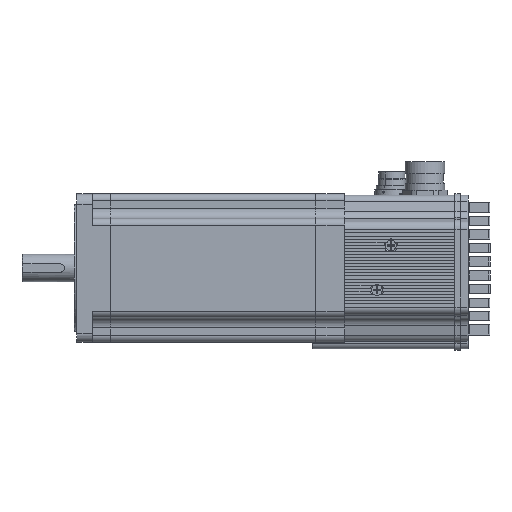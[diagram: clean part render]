
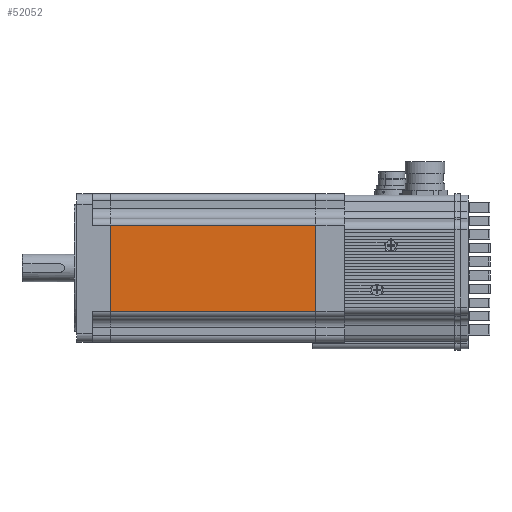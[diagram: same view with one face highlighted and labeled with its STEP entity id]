
A CAD part, left-side view. The second image highlights one B-rep face of the part: STEP entity #52052.
In plain terms, the highlighted planar face has unit normal (-1, 0, 0) as drawn and (1, 0, 0) by its records, which use the part's own axes.
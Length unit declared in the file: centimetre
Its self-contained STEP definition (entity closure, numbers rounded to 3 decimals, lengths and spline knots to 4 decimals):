
#5907=VECTOR('',#82204,1.);
#5908=VECTOR('',#82208,1.);
#5909=VECTOR('',#82209,1.);
#5910=VECTOR('',#82210,1.);
#10416=LINE('',#70518,#5907);
#10417=LINE('',#70522,#5908);
#10418=LINE('',#70524,#5909);
#10419=LINE('',#70526,#5910);
#11823=PLANE('',#56238);
#17517=VERTEX_POINT('',#70517);
#17518=VERTEX_POINT('',#70519);
#17519=VERTEX_POINT('',#70523);
#17520=VERTEX_POINT('',#70525);
#27171=EDGE_CURVE('',#17518,#17517,#10416,.T.);
#27173=EDGE_CURVE('',#17517,#17519,#10417,.T.);
#27174=EDGE_CURVE('',#17520,#17519,#10418,.T.);
#27175=EDGE_CURVE('',#17520,#17518,#10419,.T.);
#42225=ORIENTED_EDGE('',*,*,#27173,.T.);
#42226=ORIENTED_EDGE('',*,*,#27174,.F.);
#42227=ORIENTED_EDGE('',*,*,#27175,.T.);
#42228=ORIENTED_EDGE('',*,*,#27171,.T.);
#45808=EDGE_LOOP('',(#42225,#42226,#42227,#42228));
#49166=FACE_BOUND('',#45808,.T.);
#52052=ADVANCED_FACE('',(#49166),#11823,.T.);
#56238=AXIS2_PLACEMENT_3D('',#70521,#82207,$);
#70517=CARTESIAN_POINT('',(4.2926,-2.4892,-12.7508));
#70518=CARTESIAN_POINT('',(4.2926,-2.4892,-0.889));
#70519=CARTESIAN_POINT('',(4.2926,-2.4892,-0.889));
#70521=CARTESIAN_POINT('',(4.2926,0.,-0.889));
#70522=CARTESIAN_POINT('',(4.2926,2.4892,-12.7508));
#70523=CARTESIAN_POINT('',(4.2926,2.4892,-12.7508));
#70524=CARTESIAN_POINT('',(4.2926,2.4892,-0.889));
#70525=CARTESIAN_POINT('',(4.2926,2.4892,-0.889));
#70526=CARTESIAN_POINT('',(4.2926,2.4892,-0.889));
#82204=DIRECTION('',(0.,0.,-1.));
#82207=DIRECTION('',(1.,0.,0.));
#82208=DIRECTION('',(0.,1.,0.));
#82209=DIRECTION('',(0.,0.,-1.));
#82210=DIRECTION('',(0.,-1.,0.));
